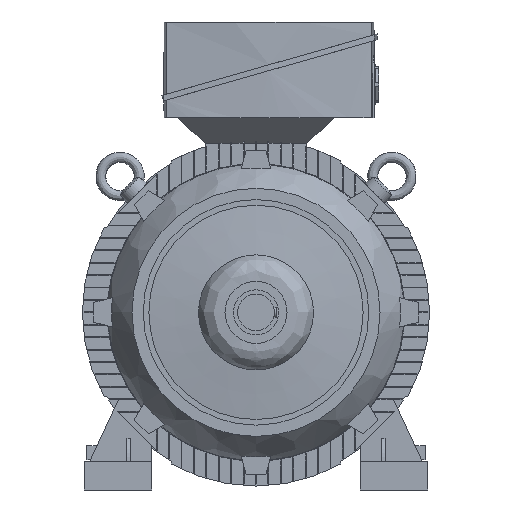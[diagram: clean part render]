
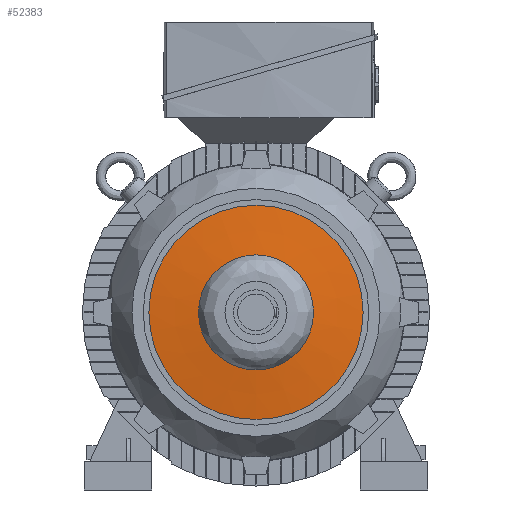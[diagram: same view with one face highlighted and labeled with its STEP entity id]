
A CAD part, left-side view. The second image highlights one B-rep face of the part: STEP entity #52383.
In plain terms, the highlighted conical face has half-angle 83.517 degrees and reference radius 190 mm.
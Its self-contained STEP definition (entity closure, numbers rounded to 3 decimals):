
#278 = FACE_OUTER_BOUND ( 'NONE', #6444, .T. ) ;
#282 = FACE_BOUND ( 'NONE', #6457, .T. ) ;
#287 = CONICAL_SURFACE ( 'NONE', #1655, 190., 1.458 ) ;
#1063 = CARTESIAN_POINT ( 'NONE',  ( -64., 0., 0. ) ) ;
#1064 = DIRECTION ( 'NONE',  ( 1., 0., 0. ) ) ;
#1071 = DIRECTION ( 'NONE',  ( 0., 0., -1. ) ) ;
#1655 = AXIS2_PLACEMENT_3D ( 'NONE', #1063, #1064, #1071 ) ;
#4356 = CARTESIAN_POINT ( 'NONE',  ( -64., 0., -190. ) ) ;
#4359 = CARTESIAN_POINT ( 'NONE',  ( -74., 102., 0. ) ) ;
#4527 = VERTEX_POINT ( 'NONE', #4356 ) ;
#4536 = VERTEX_POINT ( 'NONE', #4359 ) ;
#6444 = EDGE_LOOP ( 'NONE', ( #38963 ) ) ;
#6457 = EDGE_LOOP ( 'NONE', ( #38964 ) ) ;
#21489 = CIRCLE ( 'NONE', #30689, 190. ) ;
#21867 = CIRCLE ( 'NONE', #30751, 102. ) ;
#24231 = CARTESIAN_POINT ( 'NONE',  ( -64., 0., 0. ) ) ;
#24232 = DIRECTION ( 'NONE',  ( 1., 0., 0. ) ) ;
#24233 = DIRECTION ( 'NONE',  ( 0., 0., -1. ) ) ;
#25147 = CARTESIAN_POINT ( 'NONE',  ( -74., 0., 0. ) ) ;
#25148 = DIRECTION ( 'NONE',  ( 1., 0., 0. ) ) ;
#25149 = DIRECTION ( 'NONE',  ( 0., 1., 0. ) ) ;
#30689 = AXIS2_PLACEMENT_3D ( 'NONE', #24231, #24232, #24233 ) ;
#30751 = AXIS2_PLACEMENT_3D ( 'NONE', #25147, #25148, #25149 ) ;
#38963 = ORIENTED_EDGE ( 'NONE', *, *, #46394, .F. ) ;
#38964 = ORIENTED_EDGE ( 'NONE', *, *, #46641, .T. ) ;
#46394 = EDGE_CURVE ( 'NONE', #4527, #4527, #21489, .T. ) ;
#46641 = EDGE_CURVE ( 'NONE', #4536, #4536, #21867, .T. ) ;
#52383 = ADVANCED_FACE ( 'NONE', ( #278, #282 ), #287, .T. ) ;
